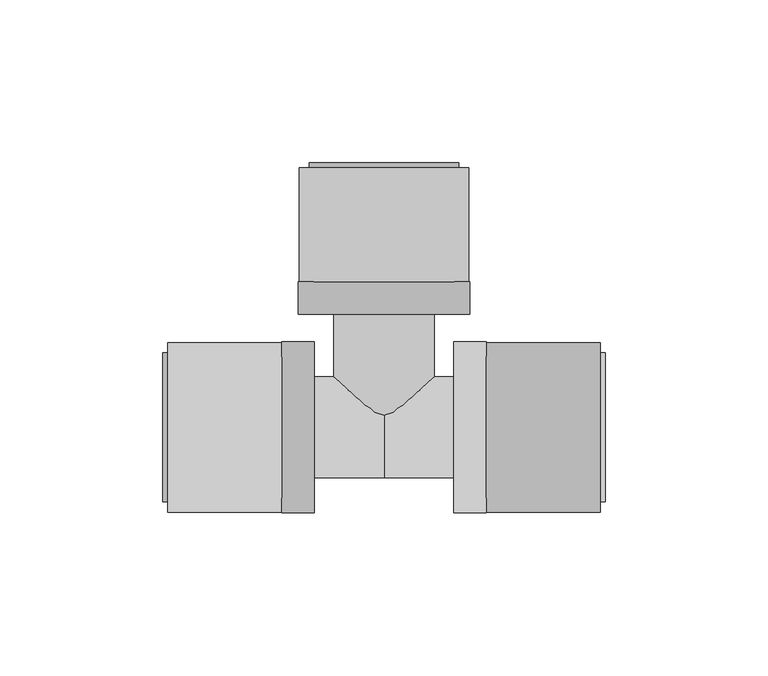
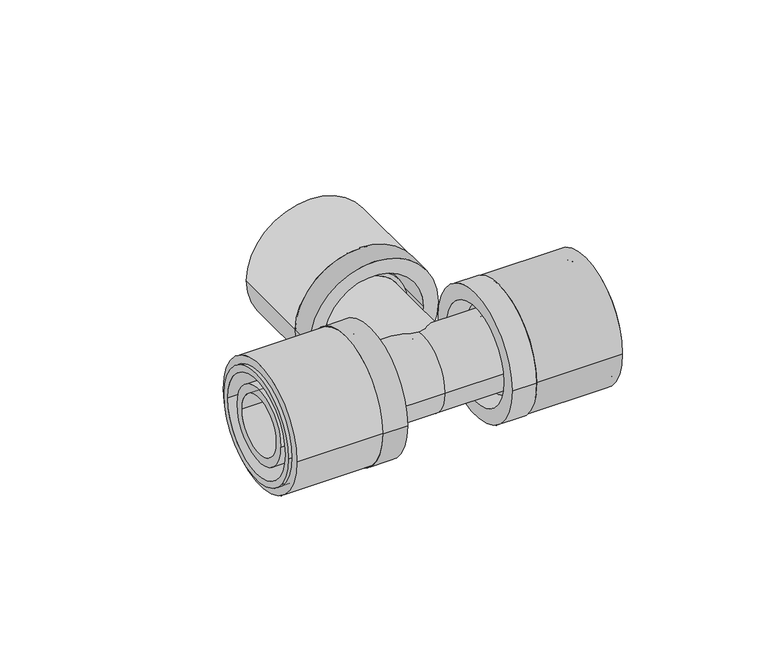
"""IFC4 building model written with IfcOpenShell, lengths in millimetres: pipe fitting geometry, FASTLOC_T-piece_LX : FSL T-Piece LX CZ."""

import ifcopenshell
import ifcopenshell.guid

model = None  # the IFC model being written
_history = None  # IfcOwnerHistory: only IFC2X3 demands one
_inside = {}  # id of a spatial element -> (the spatial element, [elements in it])
_under = {}  # id of a project, library or spatial element -> (it, [spatial elements below it])
_declared = {}  # id of a project -> (the project, [libraries it declares])
_typed = {}  # id of a type object -> (the type object, [elements of that type])
_made_of = {}  # id of a material, layer set ... -> (it, [elements and type objects made of it])


def new_model(schema):
    """Start an empty IFC model of exactly this schema.

    Asked for "IFC4X3", IfcOpenShell would pick the latest addendum, in which some entities
    have other attributes; the version numbers below select the first issue.
    IFC2X3 requires an IfcOwnerHistory on every rooted entity: one is made here for all.
    """
    global model, _history
    if schema == "IFC4X3":
        model = ifcopenshell.file(schema_version=(4, 3, 0, 0))
    else:
        model = ifcopenshell.file(schema=schema)
    _inside.clear()
    _under.clear()
    _declared.clear()
    _typed.clear()
    _made_of.clear()
    _history = None
    if model.schema == "IFC2X3":
        org = make("IfcOrganization", Name="unknown")
        user = make(
            "IfcPersonAndOrganization",
            ThePerson=make("IfcPerson", FamilyName="unknown"),
            TheOrganization=org,
        )
        app = make(
            "IfcApplication",
            ApplicationDeveloper=org,
            Version="unknown",
            ApplicationFullName="unknown",
            ApplicationIdentifier="unknown",
        )
        _history = make(
            "IfcOwnerHistory",
            OwningUser=user,
            OwningApplication=app,
            ChangeAction="ADDED",
            CreationDate=0,
        )
    return model


def make(cls, **values):
    """One entity of the class cls with the attributes given. An attribute that is None is left unset."""
    return model.create_entity(
        cls, **{name: value for name, value in values.items() if value is not None}
    )


def rooted(cls, **values):
    """An entity with a GlobalId (a new one), such as an element, a storey or a relation."""
    return make(cls, GlobalId=ifcopenshell.guid.new(), OwnerHistory=_history, **values)


def si_unit(unit_type, name, prefix=None):
    """IfcSIUnit, for example si_unit("LENGTHUNIT", "METRE", prefix="MILLI")."""
    return make("IfcSIUnit", UnitType=unit_type, Prefix=prefix, Name=name)


def assignment(units):
    """IfcUnitAssignment: the units of a project."""
    return None if units is None else make("IfcUnitAssignment", Units=units)


def point(xyz):
    """IfcCartesianPoint."""
    return None if xyz is None else make("IfcCartesianPoint", Coordinates=xyz)


def direction(xyz):
    """IfcDirection."""
    return None if xyz is None else make("IfcDirection", DirectionRatios=xyz)


def frame(location, z_axis=None, x_axis=None):
    """IfcAxis2Placement3D, a coordinate frame: its origin and axes. An axis left out is left unset."""
    return make(
        "IfcAxis2Placement3D",
        Location=point(location),
        Axis=direction(z_axis),
        RefDirection=direction(x_axis),
    )


def frame_2d(location, x_axis=None):
    """IfcAxis2Placement2D, a coordinate frame in the plane: its origin and x axis."""
    return make(
        "IfcAxis2Placement2D", Location=point(location), RefDirection=direction(x_axis)
    )


def origin():
    """The frame at (0, 0, 0) with its axes left unset."""
    return frame((0.0, 0.0, 0.0))


def origin_2d():
    """The frame at (0, 0) in the plane with its x axis left unset."""
    return frame_2d((0.0, 0.0))


def place(relative_to, where):
    """IfcLocalPlacement: puts the frame where relative to a parent placement (None: the world)."""
    return make(
        "IfcLocalPlacement", PlacementRelTo=relative_to, RelativePlacement=where
    )


def context(
    kind, dimensions, precision=None, world=None, true_north=None, identifier=None
):
    """IfcGeometricRepresentationContext, for example the 3D "Model" context."""
    return make(
        "IfcGeometricRepresentationContext",
        ContextIdentifier=identifier,
        ContextType=kind,
        CoordinateSpaceDimension=dimensions,
        Precision=precision,
        WorldCoordinateSystem=world,
        TrueNorth=true_north,
    )


def project(units=None, contexts=None):
    """IfcProject with its units and contexts."""
    return rooted(
        "IfcProject",
        Name="project",
        RepresentationContexts=contexts,
        UnitsInContext=assignment(units),
    )


def spatial(cls, under=None, at=None, **own):
    """A site, building, storey or space (cls), placed at a placement, below another one or the project."""
    s = rooted(cls, ObjectPlacement=at, **own)
    if under is not None:
        _under.setdefault(under.id(), (under, []))[1].append(s)
    return s


def polyline(points):
    """IfcPolyline through the points."""
    return make("IfcPolyline", Points=[point(p) for p in points])


def circle_curve(where, radius):
    """IfcCircle in the frame where."""
    return make("IfcCircle", Position=where, Radius=radius)


def trimmed(basis, trim1, trim2, sense, master):
    """IfcTrimmedCurve: the piece of a basis curve between two trims."""
    return make(
        "IfcTrimmedCurve",
        BasisCurve=basis,
        Trim1=trim1,
        Trim2=trim2,
        SenseAgreement=sense,
        MasterRepresentation=master,
    )


def segment(curve, same_sense, transition):
    """IfcCompositeCurveSegment."""
    return make(
        "IfcCompositeCurveSegment",
        Transition=transition,
        SameSense=same_sense,
        ParentCurve=curve,
    )


def composite_curve(segments, self_intersect=None):
    """IfcCompositeCurve: segments joined end to end."""
    return make("IfcCompositeCurve", Segments=segments, SelfIntersect=self_intersect)


def outline(outer, holes=None, kind="AREA"):
    """IfcArbitraryClosedProfileDef: a profile drawn as a closed curve; with holes, ...WithVoids."""
    if holes is None:
        return make("IfcArbitraryClosedProfileDef", ProfileType=kind, OuterCurve=outer)
    return make(
        "IfcArbitraryProfileDefWithVoids",
        ProfileType=kind,
        OuterCurve=outer,
        InnerCurves=holes,
    )


def extrude(swept, where, along, depth):
    """IfcExtrudedAreaSolid: the profile swept, set in the frame where, extruded along a direction by depth."""
    return make(
        "IfcExtrudedAreaSolid",
        SweptArea=swept,
        Position=where,
        ExtrudedDirection=direction(along),
        Depth=depth,
    )


def shape(context_of_items, identifier, shape_type, items):
    """IfcShapeRepresentation: the items that make up one representation, for example the "Body"."""
    return make(
        "IfcShapeRepresentation",
        ContextOfItems=context_of_items,
        RepresentationIdentifier=identifier,
        RepresentationType=shape_type,
        Items=items,
    )


def source(mapping_origin, context_of_items, identifier, shape_type, items):
    """IfcRepresentationMap: a shape defined once, which mapped items show again and again."""
    return make(
        "IfcRepresentationMap",
        MappingOrigin=mapping_origin,
        MappedRepresentation=shape(context_of_items, identifier, shape_type, items),
    )


def transform(
    local_origin,
    x_axis=None,
    y_axis=None,
    z_axis=None,
    scale=None,
    scale2=None,
    scale3=None,
    uniform=True,
):
    """IfcCartesianTransformationOperator3D, or its non-uniform kind. x_axis, y_axis, z_axis: its Axis1, 2, 3."""
    if uniform:
        return make(
            "IfcCartesianTransformationOperator3D",
            Axis1=direction(x_axis),
            Axis2=direction(y_axis),
            LocalOrigin=point(local_origin),
            Scale=scale,
            Axis3=direction(z_axis),
        )
    return make(
        "IfcCartesianTransformationOperator3DnonUniform",
        Axis1=direction(x_axis),
        Axis2=direction(y_axis),
        LocalOrigin=point(local_origin),
        Scale=scale,
        Axis3=direction(z_axis),
        Scale2=scale2,
        Scale3=scale3,
    )


def mapped(mapping_source, mapping_target):
    """IfcMappedItem: shows the shape of a source again, moved by a transform."""
    return make(
        "IfcMappedItem", MappingSource=mapping_source, MappingTarget=mapping_target
    )


def made_of(thing, what):
    """Note that an element or type object is made of a material, layer set ...; save() writes the relation."""
    if what is not None:
        _made_of.setdefault(what.id(), (what, []))[1].append(thing)
    return thing


def element(
    cls,
    number,
    at=None,
    inside=None,
    cuts=None,
    type_object=None,
    material=None,
    context=None,
    identifier="Body",
    shape_type=None,
    held_by="IfcProductDefinitionShape",
    body=None,
    shapes=None,
    **own,
):
    """One element of the class cls, such as IfcWall. Its Tag is "e" and its number.

    at: its placement. inside: the storey or other place that contains it. cuts: it is an
    opening in that element (IfcRelVoidsElement). A single representation is given by context,
    identifier, shape_type and body (its items); several are given by shapes. held_by: the class
    of the entity that holds the representations. save() writes the other relations.
    """
    e = rooted(cls, Tag="e%d" % number, ObjectPlacement=at, **own)
    if body is not None:
        shapes = [shape(context, identifier, shape_type, body)]
    if shapes is not None:
        e.Representation = make(held_by, Representations=shapes)
    if inside is not None:
        _inside.setdefault(inside.id(), (inside, []))[1].append(e)
    if cuts is not None:
        rooted(
            "IfcRelVoidsElement", RelatingBuildingElement=cuts, RelatedOpeningElement=e
        )
    if type_object is not None:
        _typed.setdefault(type_object.id(), (type_object, []))[1].append(e)
    return made_of(e, material)


def aggregate(whole, parts):
    """IfcRelAggregates: a whole, such as a stair, and the parts it consists of."""
    return rooted("IfcRelAggregates", RelatingObject=whole, RelatedObjects=parts)


def save(model, path):
    """Write the relations noted so far, then the file.

    IfcRelAggregates (storeys below a building ...), IfcRelContainedInSpatialStructure (elements
    in a storey), IfcRelDefinesByType, IfcRelAssociatesMaterial and IfcRelDeclares: one each for
    every whole, place, type object, material and project.
    """
    for whole, parts in _under.values():
        aggregate(whole, parts)
    for where, things in _inside.values():
        rooted(
            "IfcRelContainedInSpatialStructure",
            RelatedElements=things,
            RelatingStructure=where,
        )
    for kind, things in _typed.values():
        rooted("IfcRelDefinesByType", RelatedObjects=things, RelatingType=kind)
    for what, things in _made_of.values():
        rooted("IfcRelAssociatesMaterial", RelatedObjects=things, RelatingMaterial=what)
    for by, libraries in _declared.values():
        rooted("IfcRelDeclares", RelatingContext=by, RelatedDefinitions=libraries)
    model.write(path)


def plane_surface(at):
    """IfcPlane: the flat surface through the origin of the frame at, square to its z axis."""
    return make("IfcPlane", Position=at)


def cylinder_surface(at, radius):
    """IfcCylindricalSurface: all points at the distance radius from the z axis of the frame at."""
    return make("IfcCylindricalSurface", Position=at, Radius=radius)


def revolved_surface(curve, axis_point, axis_direction):
    """IfcSurfaceOfRevolution: the curve turned about the line through axis_point along axis_direction."""
    return make(
        "IfcSurfaceOfRevolution",
        SweptCurve=make("IfcArbitraryOpenProfileDef", ProfileType="CURVE", Curve=curve),
        AxisPosition=make("IfcAxis1Placement", Location=point(axis_point), Axis=direction(axis_direction)),
    )


def advanced_brep(points, edges, surfaces, faces):
    """IfcAdvancedBrep: a solid bounded by faces that lie on surfaces and meet in shared edges.

    An edge is (start, end): straight between two places in points (the first is 0);
    or (start, end, curve); or (start, end, curve, False) where it runs against its curve.
    A face is (place in surfaces, loops), or (place, loops, False) where it looks against
    its surface's normal. A loop lists edges by number (the first is 1), with a minus sign
    where the edge is run from its end to its start. The first loop is the outer one.
    """
    corners = [point(p) for p in points]
    vertices = [make("IfcVertexPoint", VertexGeometry=c) for c in corners]
    made = []
    for start, end, *more in edges:
        made.append(
            make(
                "IfcEdgeCurve",
                EdgeStart=vertices[start],
                EdgeEnd=vertices[end],
                EdgeGeometry=more[0] if more else make("IfcPolyline", Points=[corners[start], corners[end]]),
                SameSense=more[1] if len(more) > 1 else True,
            )
        )
    hull = []
    for where, loops, *sense in faces:
        bounds = []
        for j, loop in enumerate(loops):
            ring = [make("IfcOrientedEdge", EdgeElement=made[abs(k) - 1], Orientation=k > 0) for k in loop]
            bounds.append(
                make(
                    "IfcFaceOuterBound" if j == 0 else "IfcFaceBound",
                    Bound=make("IfcEdgeLoop", EdgeList=ring),
                    Orientation=True,
                )
            )
        hull.append(make("IfcAdvancedFace", Bounds=bounds, FaceSurface=surfaces[where], SameSense=sense[0] if sense else True))
    return make("IfcAdvancedBrep", Outer=make("IfcClosedShell", CfsFaces=hull))


def pipe_fitting_564e9d2e(model_context):
    return source(origin(), model_context, "Body", "SolidModel", [
        extrude(outline(composite_curve([segment(trimmed(circle_curve(origin_2d(), 26.0), [point((-26.0, 0.0))], [point((26.0, 0.0))], False, "CARTESIAN"), True, "CONTINUOUS"), segment(trimmed(circle_curve(origin_2d(), 26.0), [point((26.0, 0.0))], [point((-26.0, 0.0))], False, "CARTESIAN"), True, "CONTINUOUS")], self_intersect=False), holes=[composite_curve([segment(trimmed(circle_curve(origin_2d(), 21.25), [point((-21.25, 0.0))], [point((21.25, 0.0))], True, "CARTESIAN"), True, "CONTINUOUS"), segment(trimmed(circle_curve(origin_2d(), 21.25), [point((21.25, 0.0))], [point((-21.25, 0.0))], True, "CARTESIAN"), True, "CONTINUOUS")], self_intersect=False)]), frame((31.4, 0.0, 0.0), z_axis=(1.0, 0.0, 0.0), x_axis=(0.0, 1.0, 0.0)), (0.0, 0.0, 1.0), 35.0),
        advanced_brep(
        [(31.4, 26.3, 0.0), (31.4, -26.3, 0.0), (21.4, -26.3, 0.0), (21.4, 26.3, 0.0), (67.9, 22.9, 0.0), (67.9, -22.9, 0.0), (31.4, -22.9, 0.0), (31.4, 22.9, 0.0), (21.4, 20.2, 0.0), (21.4, -20.2, 0.0), (67.9, -20.2, 0.0), (67.9, 20.2, 0.0)],
        [
            (0, 1, circle_curve(frame((31.4, 0.0, 0.0), z_axis=(-1.0, 0.0, 0.0), x_axis=(0.0, -1.0, 0.0)), 26.3)),
            (1, 2),
            (2, 3, circle_curve(frame((21.4, 0.0, 0.0), z_axis=(1.0, 0.0, 0.0), x_axis=(0.0, -1.0, 0.0)), 26.3)),
            (3, 0),
            (4, 5, circle_curve(frame((67.9, 0.0, 0.0), z_axis=(-1.0, 0.0, 0.0), x_axis=(0.0, -1.0, 0.0)), 22.9)),
            (5, 6),
            (6, 7, circle_curve(frame((31.4, 0.0, 0.0), z_axis=(1.0, 0.0, 0.0), x_axis=(0.0, -1.0, 0.0)), 22.9)),
            (7, 4),
            (8, 9, circle_curve(frame((21.4, 0.0, 0.0), z_axis=(-1.0, 0.0, 0.0), x_axis=(0.0, -1.0, 0.0)), 20.2)),
            (9, 10),
            (10, 11, circle_curve(frame((67.9, 0.0, 0.0), z_axis=(1.0, 0.0, 0.0), x_axis=(0.0, -1.0, 0.0)), 20.2)),
            (11, 8),
            (1, 0, circle_curve(frame((31.4, 0.0, 0.0), z_axis=(-1.0, 0.0, 0.0), x_axis=(0.0, 1.0, 0.0)), 26.3)),
            (3, 2, circle_curve(frame((21.4, 0.0, 0.0), z_axis=(1.0, 0.0, 0.0), x_axis=(0.0, 1.0, 0.0)), 26.3)),
            (6, 7, circle_curve(frame((31.4, 0.0, 0.0), z_axis=(-1.0, 0.0, 0.0), x_axis=(0.0, 1.0, 0.0)), 22.9)),
            (5, 4, circle_curve(frame((67.9, 0.0, 0.0), z_axis=(-1.0, 0.0, 0.0), x_axis=(0.0, 1.0, 0.0)), 22.9)),
            (10, 11, circle_curve(frame((67.9, 0.0, 0.0), z_axis=(-1.0, 0.0, 0.0), x_axis=(0.0, 1.0, 0.0)), 20.2)),
            (9, 8, circle_curve(frame((21.4, 0.0, 0.0), z_axis=(-1.0, 0.0, 0.0), x_axis=(0.0, 1.0, 0.0)), 20.2)),
        ],
        [
            cylinder_surface(frame((21.4, 0.0, 0.0), z_axis=(1.0, 0.0, 0.0), x_axis=(0.0, -1.0, 0.0)), 26.3),
            cylinder_surface(frame((21.4, 0.0, 0.0), z_axis=(1.0, 0.0, 0.0), x_axis=(0.0, -1.0, 0.0)), 22.9),
            revolved_surface(polyline([(67.9, -20.2, 0.0), (21.4, -20.2, 0.0)]), (21.4, 0.0, 0.0), (1.0, 0.0, 0.0)),
            cylinder_surface(frame((21.4, 0.0, 0.0), z_axis=(1.0, 0.0, 0.0), x_axis=(0.0, 1.0, 0.0)), 26.3),
            plane_surface(frame((31.4, 0.0, 0.0), z_axis=(1.0, 0.0, 0.0), x_axis=(0.0, 1.0, 0.0))),
            cylinder_surface(frame((21.4, 0.0, 0.0), z_axis=(1.0, 0.0, 0.0), x_axis=(0.0, 1.0, 0.0)), 22.9),
            plane_surface(frame((67.9, 0.0, 0.0), z_axis=(1.0, 0.0, 0.0), x_axis=(0.0, 1.0, 0.0))),
            revolved_surface(polyline([(67.9, 20.2, 0.0), (21.4, 20.2, 0.0)]), (21.4, 0.0, 0.0), (1.0, 0.0, 0.0)),
            plane_surface(frame((21.4, 0.0, 0.0), z_axis=(-1.0, 0.0, 0.0), x_axis=(0.0, 1.0, 0.0))),
        ],
        [
            (0, [[1, 2, 3, 4]]),
            (1, [[5, 6, 7, 8]]),
            (2, [[9, 10, 11, 12]]),
            (3, [[13, -4, 14, -2]]),
            (4, [[-13, -1], [15, -7]]),
            (5, [[16, -8, -15, -6]]),
            (6, [[-16, -5], [17, -11]]),
            (7, [[18, -12, -17, -10]]),
            (8, [[-14, -3], [-18, -9]]),
        ],
    ),
        extrude(outline(composite_curve([segment(trimmed(circle_curve(origin_2d(), 26.0), [point((26.0, 0.0))], [point((-26.0, 0.0))], False, "CARTESIAN"), True, "CONTINUOUS"), segment(trimmed(circle_curve(origin_2d(), 26.0), [point((-26.0, 0.0))], [point((26.0, 0.0))], False, "CARTESIAN"), True, "CONTINUOUS")], self_intersect=False), holes=[composite_curve([segment(trimmed(circle_curve(origin_2d(), 21.25), [point((21.25, 0.0))], [point((-21.25, 0.0))], True, "CARTESIAN"), True, "CONTINUOUS"), segment(trimmed(circle_curve(origin_2d(), 21.25), [point((-21.25, 0.0))], [point((21.25, 0.0))], True, "CARTESIAN"), True, "CONTINUOUS")], self_intersect=False)]), frame((-66.4, 0.0, 0.0), z_axis=(1.0, 0.0, 0.0), x_axis=(0.0, 1.0, 0.0)), (0.0, 0.0, 1.0), 35.0),
        advanced_brep(
        [(-31.4, -26.3, 0.0), (-31.4, 26.3, 0.0), (-21.4, 26.3, 0.0), (-21.4, -26.3, 0.0), (-67.9, -22.9, 0.0), (-67.9, 22.9, 0.0), (-31.4, 22.9, 0.0), (-31.4, -22.9, 0.0), (-21.4, -20.2, 0.0), (-21.4, 20.2, 0.0), (-67.9, 20.2, 0.0), (-67.9, -20.2, 0.0)],
        [
            (0, 1, circle_curve(frame((-31.4, 0.0, 0.0), z_axis=(1.0, 0.0, 0.0), x_axis=(0.0, 1.0, 0.0)), 26.3)),
            (1, 2),
            (2, 3, circle_curve(frame((-21.4, 0.0, 0.0), z_axis=(-1.0, 0.0, 0.0), x_axis=(0.0, 1.0, 0.0)), 26.3)),
            (3, 0),
            (4, 5, circle_curve(frame((-67.9, 0.0, 0.0), z_axis=(1.0, 0.0, 0.0), x_axis=(0.0, 1.0, 0.0)), 22.9)),
            (5, 6),
            (6, 7, circle_curve(frame((-31.4, 0.0, 0.0), z_axis=(-1.0, 0.0, 0.0), x_axis=(0.0, 1.0, 0.0)), 22.9)),
            (7, 4),
            (8, 9, circle_curve(frame((-21.4, 0.0, 0.0), z_axis=(1.0, 0.0, 0.0), x_axis=(0.0, 1.0, 0.0)), 20.2)),
            (9, 10),
            (10, 11, circle_curve(frame((-67.9, 0.0, 0.0), z_axis=(-1.0, 0.0, 0.0), x_axis=(0.0, 1.0, 0.0)), 20.2)),
            (11, 8),
            (1, 0, circle_curve(frame((-31.4, 0.0, 0.0), z_axis=(1.0, 0.0, 0.0), x_axis=(0.0, -1.0, 0.0)), 26.3)),
            (3, 2, circle_curve(frame((-21.4, 0.0, 0.0), z_axis=(-1.0, 0.0, 0.0), x_axis=(0.0, -1.0, 0.0)), 26.3)),
            (6, 7, circle_curve(frame((-31.4, 0.0, 0.0), z_axis=(1.0, 0.0, 0.0), x_axis=(0.0, -1.0, 0.0)), 22.9)),
            (5, 4, circle_curve(frame((-67.9, 0.0, 0.0), z_axis=(1.0, 0.0, 0.0), x_axis=(0.0, -1.0, 0.0)), 22.9)),
            (10, 11, circle_curve(frame((-67.9, 0.0, 0.0), z_axis=(1.0, 0.0, 0.0), x_axis=(0.0, -1.0, 0.0)), 20.2)),
            (9, 8, circle_curve(frame((-21.4, 0.0, 0.0), z_axis=(1.0, 0.0, 0.0), x_axis=(0.0, -1.0, 0.0)), 20.2)),
        ],
        [
            cylinder_surface(frame((-21.4, 0.0, 0.0), z_axis=(-1.0, 0.0, 0.0), x_axis=(0.0, 1.0, 0.0)), 26.3),
            cylinder_surface(frame((-21.4, 0.0, 0.0), z_axis=(-1.0, 0.0, 0.0), x_axis=(0.0, 1.0, 0.0)), 22.9),
            revolved_surface(polyline([(-67.9, 20.2, 0.0), (-21.4, 20.2, 0.0)]), (-21.4, 0.0, 0.0), (-1.0, 0.0, 0.0)),
            cylinder_surface(frame((-21.4, 0.0, 0.0), z_axis=(-1.0, 0.0, 0.0), x_axis=(0.0, -1.0, 0.0)), 26.3),
            plane_surface(frame((-31.4, 0.0, 0.0), z_axis=(-1.0, 0.0, 0.0), x_axis=(0.0, -1.0, 0.0))),
            cylinder_surface(frame((-21.4, 0.0, 0.0), z_axis=(-1.0, 0.0, 0.0), x_axis=(0.0, -1.0, 0.0)), 22.9),
            plane_surface(frame((-67.9, 0.0, 0.0), z_axis=(-1.0, 0.0, 0.0), x_axis=(0.0, -1.0, 0.0))),
            revolved_surface(polyline([(-67.9, -20.2, 0.0), (-21.4, -20.2, 0.0)]), (-21.4, 0.0, 0.0), (-1.0, 0.0, 0.0)),
            plane_surface(frame((-21.4, 0.0, 0.0), z_axis=(1.0, 0.0, 0.0), x_axis=(0.0, -1.0, 0.0))),
        ],
        [
            (0, [[1, 2, 3, 4]]),
            (1, [[5, 6, 7, 8]]),
            (2, [[9, 10, 11, 12]]),
            (3, [[13, -4, 14, -2]]),
            (4, [[-13, -1], [15, -7]]),
            (5, [[16, -8, -15, -6]]),
            (6, [[-16, -5], [17, -11]]),
            (7, [[18, -12, -17, -10]]),
            (8, [[-14, -3], [-18, -9]]),
        ],
    ),
        extrude(outline(composite_curve([segment(trimmed(circle_curve(origin_2d(), 26.0), [point((0.0, 26.0))], [point((0.0, -26.0))], False, "CARTESIAN"), True, "CONTINUOUS"), segment(trimmed(circle_curve(origin_2d(), 26.0), [point((0.0, -26.0))], [point((0.0, 26.0))], False, "CARTESIAN"), True, "CONTINUOUS")], self_intersect=False), holes=[composite_curve([segment(trimmed(circle_curve(origin_2d(), 21.25), [point((0.0, 21.25))], [point((0.0, -21.25))], True, "CARTESIAN"), True, "CONTINUOUS"), segment(trimmed(circle_curve(origin_2d(), 21.25), [point((0.0, -21.25))], [point((0.0, 21.25))], True, "CARTESIAN"), True, "CONTINUOUS")], self_intersect=False)]), frame((0.0, 44.7, 0.0), z_axis=(0.0, 1.0, 0.0), x_axis=(0.0, 0.0, 1.0)), (0.0, 0.0, 1.0), 35.0),
        advanced_brep(
        [(-26.3, 44.7, 0.0), (26.3, 44.7, 0.0), (26.3, 34.7, 0.0), (-26.3, 34.7, 0.0), (-22.9, 81.2, 0.0), (22.9, 81.2, 0.0), (22.9, 44.7, 0.0), (-22.9, 44.7, 0.0), (-20.2, 34.7, 0.0), (20.2, 34.7, 0.0), (20.2, 81.2, 0.0), (-20.2, 81.2, 0.0)],
        [
            (0, 1, circle_curve(frame((0.0, 44.7, 0.0), z_axis=(0.0, -1.0, 0.0), x_axis=(1.0, 0.0, 0.0)), 26.3)),
            (1, 2),
            (2, 3, circle_curve(frame((0.0, 34.7, 0.0), z_axis=(0.0, 1.0, 0.0), x_axis=(1.0, 0.0, 0.0)), 26.3)),
            (3, 0),
            (4, 5, circle_curve(frame((0.0, 81.2, 0.0), z_axis=(0.0, -1.0, 0.0), x_axis=(1.0, 0.0, 0.0)), 22.9)),
            (5, 6),
            (6, 7, circle_curve(frame((0.0, 44.7, 0.0), z_axis=(0.0, 1.0, 0.0), x_axis=(1.0, 0.0, 0.0)), 22.9)),
            (7, 4),
            (8, 9, circle_curve(frame((0.0, 34.7, 0.0), z_axis=(0.0, -1.0, 0.0), x_axis=(1.0, 0.0, 0.0)), 20.2)),
            (9, 10),
            (10, 11, circle_curve(frame((0.0, 81.2, 0.0), z_axis=(0.0, 1.0, 0.0), x_axis=(1.0, 0.0, 0.0)), 20.2)),
            (11, 8),
            (1, 0, circle_curve(frame((0.0, 44.7, 0.0), z_axis=(0.0, -1.0, 0.0), x_axis=(-1.0, 0.0, 0.0)), 26.3)),
            (3, 2, circle_curve(frame((0.0, 34.7, 0.0), z_axis=(0.0, 1.0, 0.0), x_axis=(-1.0, 0.0, 0.0)), 26.3)),
            (6, 7, circle_curve(frame((0.0, 44.7, 0.0), z_axis=(0.0, -1.0, 0.0), x_axis=(-1.0, 0.0, 0.0)), 22.9)),
            (5, 4, circle_curve(frame((0.0, 81.2, 0.0), z_axis=(0.0, -1.0, 0.0), x_axis=(-1.0, 0.0, 0.0)), 22.9)),
            (10, 11, circle_curve(frame((0.0, 81.2, 0.0), z_axis=(0.0, -1.0, 0.0), x_axis=(-1.0, 0.0, 0.0)), 20.2)),
            (9, 8, circle_curve(frame((0.0, 34.7, 0.0), z_axis=(0.0, -1.0, 0.0), x_axis=(-1.0, 0.0, 0.0)), 20.2)),
        ],
        [
            cylinder_surface(frame((0.0, 34.7, 0.0), z_axis=(0.0, 1.0, 0.0), x_axis=(1.0, 0.0, 0.0)), 26.3),
            cylinder_surface(frame((0.0, 34.7, 0.0), z_axis=(0.0, 1.0, 0.0), x_axis=(1.0, 0.0, 0.0)), 22.9),
            revolved_surface(polyline([(20.2, 81.2, 0.0), (20.2, 34.7, 0.0)]), (0.0, 34.7, 0.0), (0.0, 1.0, 0.0)),
            cylinder_surface(frame((0.0, 34.7, 0.0), z_axis=(0.0, 1.0, 0.0), x_axis=(-1.0, 0.0, 0.0)), 26.3),
            plane_surface(frame((0.0, 44.7, 0.0), z_axis=(0.0, 1.0, 0.0), x_axis=(-1.0, 0.0, 0.0))),
            cylinder_surface(frame((0.0, 34.7, 0.0), z_axis=(0.0, 1.0, 0.0), x_axis=(-1.0, 0.0, 0.0)), 22.9),
            plane_surface(frame((0.0, 81.2, 0.0), z_axis=(0.0, 1.0, 0.0), x_axis=(-1.0, 0.0, 0.0))),
            revolved_surface(polyline([(-20.2, 81.2, 0.0), (-20.2, 34.7, 0.0)]), (0.0, 34.7, 0.0), (0.0, 1.0, 0.0)),
            plane_surface(frame((0.0, 34.7, 0.0), z_axis=(0.0, -1.0, 0.0), x_axis=(-1.0, 0.0, 0.0))),
        ],
        [
            (0, [[1, 2, 3, 4]]),
            (1, [[5, 6, 7, 8]]),
            (2, [[9, 10, 11, 12]]),
            (3, [[13, -4, 14, -2]]),
            (4, [[-13, -1], [15, -7]]),
            (5, [[16, -8, -15, -6]]),
            (6, [[-16, -5], [17, -11]]),
            (7, [[18, -12, -17, -10]]),
            (8, [[-14, -3], [-18, -9]]),
        ],
    ),
        advanced_brep(
        [(0.0, 15.5, 0.0), (0.0, -15.5, 0.0), (-27.7, -15.5, 0.0), (-27.7, 15.5, 0.0), (27.7, 15.5, 0.0), (27.7, -15.5, 0.0), (31.4, 17.2, 0.0), (31.4, -17.2, 0.0), (27.7, -17.2, 0.0), (27.7, 17.2, 0.0), (66.85, 15.5, 0.0), (66.85, -15.5, 0.0), (31.4, -15.5, 0.0), (31.4, 15.5, 0.0), (-31.4, 15.5, 0.0), (-31.4, -15.5, 0.0), (-66.85, -15.5, 0.0), (-66.85, 15.5, 0.0), (-27.7, 17.2, 0.0), (-27.7, -17.2, 0.0), (-31.4, -17.2, 0.0), (-31.4, 17.2, 0.0), (66.85, -12.0, 0.0), (66.85, 12.0, 0.0), (-66.85, 12.0, 0.0), (-66.85, -12.0, 0.0), (0.0, 12.0, 0.0), (0.0, -12.0, 0.0)],
        [
            (0, 1, circle_curve(frame((0.0, 0.0, 0.0), z_axis=(-1.0, 0.0, 0.0), x_axis=(0.0, -1.0, 0.0)), 15.5)),
            (1, 2),
            (2, 3, circle_curve(frame((-27.7, 0.0, 0.0), z_axis=(1.0, 0.0, 0.0), x_axis=(0.0, -1.0, 0.0)), 15.5)),
            (3, 0),
            (4, 5, circle_curve(frame((27.7, 0.0, 0.0), z_axis=(-1.0, 0.0, 0.0), x_axis=(0.0, -1.0, 0.0)), 15.5)),
            (5, 1),
            (0, 4),
            (6, 7, circle_curve(frame((31.4, 0.0, 0.0), z_axis=(-1.0, 0.0, 0.0), x_axis=(0.0, -1.0, 0.0)), 17.2)),
            (7, 8),
            (8, 9, circle_curve(frame((27.7, 0.0, 0.0), z_axis=(1.0, 0.0, 0.0), x_axis=(0.0, -1.0, 0.0)), 17.2)),
            (9, 6),
            (10, 11, circle_curve(frame((66.85, 0.0, 0.0), z_axis=(-1.0, 0.0, 0.0), x_axis=(0.0, -1.0, 0.0)), 15.5)),
            (11, 12),
            (12, 13, circle_curve(frame((31.4, 0.0, 0.0), z_axis=(1.0, 0.0, 0.0), x_axis=(0.0, -1.0, 0.0)), 15.5)),
            (13, 10),
            (14, 15, circle_curve(frame((-31.4, 0.0, 0.0), z_axis=(-1.0, 0.0, 0.0), x_axis=(0.0, -1.0, 0.0)), 15.5)),
            (15, 16),
            (16, 17, circle_curve(frame((-66.85, 0.0, 0.0), z_axis=(1.0, 0.0, 0.0), x_axis=(0.0, -1.0, 0.0)), 15.5)),
            (17, 14),
            (18, 19, circle_curve(frame((-27.7, 0.0, 0.0), z_axis=(-1.0, 0.0, 0.0), x_axis=(0.0, -1.0, 0.0)), 17.2)),
            (19, 20),
            (20, 21, circle_curve(frame((-31.4, 0.0, 0.0), z_axis=(1.0, 0.0, 0.0), x_axis=(0.0, -1.0, 0.0)), 17.2)),
            (21, 18),
            (18, 19, circle_curve(frame((-27.7, 0.0, 0.0), z_axis=(1.0, 0.0, 0.0), x_axis=(0.0, 1.0, 0.0)), 17.2)),
            (2, 3, circle_curve(frame((-27.7, 0.0, 0.0), z_axis=(-1.0, 0.0, 0.0), x_axis=(0.0, 1.0, 0.0)), 15.5)),
            (1, 0, circle_curve(frame((0.0, 0.0, 0.0), z_axis=(-1.0, 0.0, 0.0), x_axis=(0.0, 1.0, 0.0)), 15.5)),
            (5, 4, circle_curve(frame((27.7, 0.0, 0.0), z_axis=(-1.0, 0.0, 0.0), x_axis=(0.0, 1.0, 0.0)), 15.5)),
            (8, 9, circle_curve(frame((27.7, 0.0, 0.0), z_axis=(-1.0, 0.0, 0.0), x_axis=(0.0, 1.0, 0.0)), 17.2)),
            (7, 6, circle_curve(frame((31.4, 0.0, 0.0), z_axis=(-1.0, 0.0, 0.0), x_axis=(0.0, 1.0, 0.0)), 17.2)),
            (12, 13, circle_curve(frame((31.4, 0.0, 0.0), z_axis=(-1.0, 0.0, 0.0), x_axis=(0.0, 1.0, 0.0)), 15.5)),
            (11, 10, circle_curve(frame((66.85, 0.0, 0.0), z_axis=(-1.0, 0.0, 0.0), x_axis=(0.0, 1.0, 0.0)), 15.5)),
            (22, 23, circle_curve(frame((66.85, 0.0, 0.0), z_axis=(-1.0, 0.0, 0.0), x_axis=(0.0, 1.0, 0.0)), 12.0)),
            (23, 22, circle_curve(frame((66.85, 0.0, 0.0), z_axis=(-1.0, 0.0, 0.0), x_axis=(0.0, -1.0, 0.0)), 12.0)),
            (16, 17, circle_curve(frame((-66.85, 0.0, 0.0), z_axis=(-1.0, 0.0, 0.0), x_axis=(0.0, 1.0, 0.0)), 15.5)),
            (24, 25, circle_curve(frame((-66.85, 0.0, 0.0), z_axis=(1.0, 0.0, 0.0), x_axis=(0.0, 1.0, 0.0)), 12.0)),
            (25, 24, circle_curve(frame((-66.85, 0.0, 0.0), z_axis=(1.0, 0.0, 0.0), x_axis=(0.0, -1.0, 0.0)), 12.0)),
            (15, 14, circle_curve(frame((-31.4, 0.0, 0.0), z_axis=(-1.0, 0.0, 0.0), x_axis=(0.0, 1.0, 0.0)), 15.5)),
            (20, 21, circle_curve(frame((-31.4, 0.0, 0.0), z_axis=(-1.0, 0.0, 0.0), x_axis=(0.0, 1.0, 0.0)), 17.2)),
            (26, 27, circle_curve(frame((0.0, 0.0, 0.0), z_axis=(-1.0, 0.0, 0.0), x_axis=(0.0, -1.0, 0.0)), 12.0)),
            (27, 22),
            (23, 26),
            (25, 27),
            (26, 24),
            (27, 26, circle_curve(frame((0.0, 0.0, 0.0), z_axis=(-1.0, 0.0, 0.0), x_axis=(0.0, 1.0, 0.0)), 12.0)),
        ],
        [
            cylinder_surface(frame((0.0, 0.0, 0.0), z_axis=(1.0, 0.0, 0.0), x_axis=(0.0, -1.0, 0.0)), 15.5),
            cylinder_surface(frame((0.0, 0.0, 0.0), z_axis=(1.0, 0.0, 0.0), x_axis=(0.0, -1.0, 0.0)), 17.2),
            plane_surface(frame((-27.7, 0.0, 0.0), z_axis=(1.0, 0.0, 0.0), x_axis=(0.0, 1.0, 0.0))),
            cylinder_surface(frame((0.0, 0.0, 0.0), z_axis=(1.0, 0.0, 0.0), x_axis=(0.0, 1.0, 0.0)), 15.5),
            plane_surface(frame((27.7, 0.0, 0.0), z_axis=(-1.0, 0.0, 0.0), x_axis=(0.0, 1.0, 0.0))),
            cylinder_surface(frame((0.0, 0.0, 0.0), z_axis=(1.0, 0.0, 0.0), x_axis=(0.0, 1.0, 0.0)), 17.2),
            plane_surface(frame((31.4, 0.0, 0.0), z_axis=(1.0, 0.0, 0.0), x_axis=(0.0, 1.0, 0.0))),
            plane_surface(frame((66.85, 0.0, 0.0), z_axis=(1.0, 0.0, 0.0), x_axis=(0.0, 1.0, 0.0))),
            plane_surface(frame((-66.85, 0.0, 0.0), z_axis=(-1.0, 0.0, 0.0), x_axis=(0.0, 1.0, 0.0))),
            plane_surface(frame((-31.4, 0.0, 0.0), z_axis=(-1.0, 0.0, 0.0), x_axis=(0.0, 1.0, 0.0))),
            revolved_surface(polyline([(66.85, -12.0, 0.0), (0.0, -12.0, 0.0)]), (0.0, 0.0, 0.0), (1.0, 0.0, 0.0)),
            revolved_surface(polyline([(0.0, -12.0, 0.0), (-66.85, -12.0, 0.0)]), (0.0, 0.0, 0.0), (1.0, 0.0, 0.0)),
            revolved_surface(polyline([(66.85, 12.0, 0.0), (0.0, 12.0, 0.0)]), (0.0, 0.0, 0.0), (1.0, 0.0, 0.0)),
            revolved_surface(polyline([(0.0, 12.0, 0.0), (-66.85, 12.0, 0.0)]), (0.0, 0.0, 0.0), (1.0, 0.0, 0.0)),
        ],
        [
            (0, [[1, 2, 3, 4]]),
            (0, [[5, 6, -1, 7]]),
            (1, [[8, 9, 10, 11]]),
            (0, [[12, 13, 14, 15]]),
            (0, [[16, 17, 18, 19]]),
            (1, [[20, 21, 22, 23]]),
            (2, [[24, -20], [25, -3]]),
            (3, [[26, -4, -25, -2]]),
            (3, [[27, -7, -26, -6]]),
            (4, [[28, -10], [-27, -5]]),
            (5, [[29, -11, -28, -9]]),
            (6, [[-29, -8], [30, -14]]),
            (3, [[31, -15, -30, -13]]),
            (7, [[-31, -12], [32, 33]]),
            (8, [[34, -18], [35, 36]]),
            (3, [[37, -19, -34, -17]]),
            (9, [[38, -22], [-37, -16]]),
            (5, [[-24, -23, -38, -21]]),
            (10, [[39, 40, -33, 41]]),
            (11, [[-36, 42, -39, 43]]),
            (12, [[44, -41, -32, -40]]),
            (13, [[-35, -43, -44, -42]]),
        ],
    ),
        advanced_brep(
        [(12.0, 80.2, 0.0), (-12.0, 80.2, 0.0), (-12.0, 0.0, 0.0), (12.0, 0.0, 0.0), (15.5, 0.0, 0.0), (-15.5, 0.0, 0.0), (-15.5, 41.0, 0.0), (15.5, 41.0, 0.0), (17.2, 41.0, 0.0), (-17.2, 41.0, 0.0), (-17.2, 44.7, 0.0), (17.2, 44.7, 0.0), (15.5, 44.7, 0.0), (-15.5, 44.7, 0.0), (-15.5, 80.2, 0.0), (15.5, 80.2, 0.0)],
        [
            (0, 1, circle_curve(frame((0.0, 80.2, 0.0), z_axis=(0.0, 1.0, 0.0), x_axis=(-1.0, 0.0, 0.0)), 12.0)),
            (1, 2),
            (2, 3, circle_curve(frame((0.0, 0.0, 0.0), z_axis=(0.0, -1.0, 0.0), x_axis=(-1.0, 0.0, 0.0)), 12.0)),
            (3, 0),
            (4, 5, circle_curve(frame((0.0, 0.0, 0.0), z_axis=(0.0, 1.0, 0.0), x_axis=(-1.0, 0.0, 0.0)), 15.5)),
            (5, 6),
            (6, 7, circle_curve(frame((0.0, 41.0, 0.0), z_axis=(0.0, -1.0, 0.0), x_axis=(-1.0, 0.0, 0.0)), 15.5)),
            (7, 4),
            (8, 9, circle_curve(frame((0.0, 41.0, 0.0), z_axis=(0.0, 1.0, 0.0), x_axis=(-1.0, 0.0, 0.0)), 17.2)),
            (9, 10),
            (10, 11, circle_curve(frame((0.0, 44.7, 0.0), z_axis=(0.0, -1.0, 0.0), x_axis=(-1.0, 0.0, 0.0)), 17.2)),
            (11, 8),
            (12, 13, circle_curve(frame((0.0, 44.7, 0.0), z_axis=(0.0, 1.0, 0.0), x_axis=(-1.0, 0.0, 0.0)), 15.5)),
            (13, 14),
            (14, 15, circle_curve(frame((0.0, 80.2, 0.0), z_axis=(0.0, -1.0, 0.0), x_axis=(-1.0, 0.0, 0.0)), 15.5)),
            (15, 12),
            (1, 0, circle_curve(frame((0.0, 80.2, 0.0), z_axis=(0.0, 1.0, 0.0), x_axis=(1.0, 0.0, 0.0)), 12.0)),
            (3, 2, circle_curve(frame((0.0, 0.0, 0.0), z_axis=(0.0, -1.0, 0.0), x_axis=(1.0, 0.0, 0.0)), 12.0)),
            (4, 5, circle_curve(frame((0.0, 0.0, 0.0), z_axis=(0.0, -1.0, 0.0), x_axis=(1.0, 0.0, 0.0)), 15.5)),
            (7, 6, circle_curve(frame((0.0, 41.0, 0.0), z_axis=(0.0, -1.0, 0.0), x_axis=(1.0, 0.0, 0.0)), 15.5)),
            (8, 9, circle_curve(frame((0.0, 41.0, 0.0), z_axis=(0.0, -1.0, 0.0), x_axis=(1.0, 0.0, 0.0)), 17.2)),
            (11, 10, circle_curve(frame((0.0, 44.7, 0.0), z_axis=(0.0, -1.0, 0.0), x_axis=(1.0, 0.0, 0.0)), 17.2)),
            (12, 13, circle_curve(frame((0.0, 44.7, 0.0), z_axis=(0.0, -1.0, 0.0), x_axis=(1.0, 0.0, 0.0)), 15.5)),
            (15, 14, circle_curve(frame((0.0, 80.2, 0.0), z_axis=(0.0, -1.0, 0.0), x_axis=(1.0, 0.0, 0.0)), 15.5)),
        ],
        [
            revolved_surface(polyline([(-12.0, 0.0, 0.0), (-12.0, 80.2, 0.0)]), (0.0, 0.0, 0.0), (0.0, -1.0, 0.0)),
            cylinder_surface(frame((0.0, 0.0, 0.0), z_axis=(0.0, -1.0, 0.0), x_axis=(-1.0, 0.0, 0.0)), 15.5),
            cylinder_surface(frame((0.0, 0.0, 0.0), z_axis=(0.0, -1.0, 0.0), x_axis=(-1.0, 0.0, 0.0)), 17.2),
            revolved_surface(polyline([(12.0, 0.0, 0.0), (12.0, 80.2, 0.0)]), (0.0, 0.0, 0.0), (0.0, -1.0, 0.0)),
            plane_surface(frame((0.0, 0.0, 0.0), z_axis=(0.0, -1.0, 0.0), x_axis=(1.0, 0.0, 0.0))),
            cylinder_surface(frame((0.0, 0.0, 0.0), z_axis=(0.0, -1.0, 0.0), x_axis=(1.0, 0.0, 0.0)), 15.5),
            plane_surface(frame((0.0, 41.0, 0.0), z_axis=(0.0, -1.0, 0.0), x_axis=(1.0, 0.0, 0.0))),
            cylinder_surface(frame((0.0, 0.0, 0.0), z_axis=(0.0, -1.0, 0.0), x_axis=(1.0, 0.0, 0.0)), 17.2),
            plane_surface(frame((0.0, 44.7, 0.0), z_axis=(0.0, 1.0, 0.0), x_axis=(1.0, 0.0, 0.0))),
            plane_surface(frame((0.0, 80.2, 0.0), z_axis=(0.0, 1.0, 0.0), x_axis=(1.0, 0.0, 0.0))),
        ],
        [
            (0, [[1, 2, 3, 4]]),
            (1, [[5, 6, 7, 8]]),
            (2, [[9, 10, 11, 12]]),
            (1, [[13, 14, 15, 16]]),
            (3, [[17, -4, 18, -2]]),
            (4, [[19, -5], [-18, -3]]),
            (5, [[-19, -8, 20, -6]]),
            (6, [[21, -9], [-20, -7]]),
            (7, [[-21, -12, 22, -10]]),
            (8, [[-22, -11], [23, -13]]),
            (5, [[-23, -16, 24, -14]]),
            (9, [[-24, -15], [-17, -1]]),
        ],
    ),
    ])


if __name__ == "__main__":
    model = new_model("IFC4")
    model_context = context("Model", 3, world=origin())
    ifc_project = project(units=[si_unit("LENGTHUNIT", "METRE", prefix="MILLI")], contexts=[model_context])
    site = spatial("IfcSite", under=ifc_project)
    building = spatial("IfcBuilding", under=site)
    placement = place(None, origin())
    pipe_fitting_shape = pipe_fitting_564e9d2e(model_context)
    element("IfcPipeFitting", 1, ObjectType="FASTLOC_T-piece_LX : FSL T-Piece LX CZ", at=placement, inside=building, context=model_context, shape_type="MappedRepresentation", body=[
        mapped(pipe_fitting_shape, transform((0.0, 0.0, 0.0), x_axis=(1.0, 0.0, 0.0), y_axis=(0.0, 1.0, 0.0), z_axis=(0.0, 0.0, 1.0))),
    ])
    save(model, "model.ifc")
